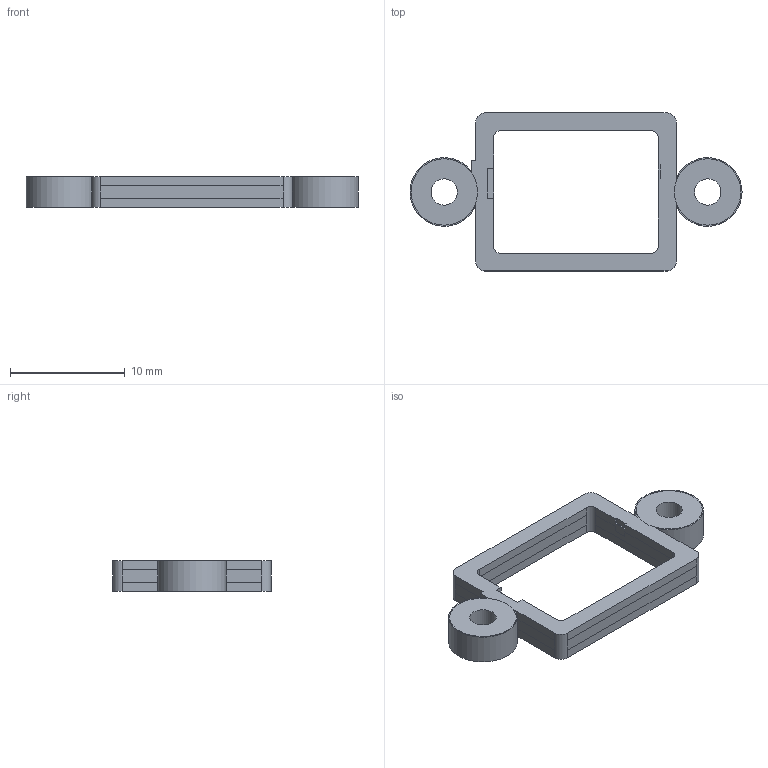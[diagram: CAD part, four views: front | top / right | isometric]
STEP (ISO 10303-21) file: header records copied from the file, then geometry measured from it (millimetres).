
FILE_DESCRIPTION(/* description */ (''),/* implementation_level */ '2;1');
FILE_NAME(/* name */ 'P13.step',/* time_stamp */ '2026-09-15T15:14:50-07:00',/* author */ (''),/* organization */ (''),/* preprocessor_version */ 'ST-DEVELOPER v20.1',/* originating_system */ 'Autodesk Translation Framework v15.8.0.0',/* authorisation */ '');
FILE_SCHEMA (('AUTOMOTIVE_DESIGN { 1 0 10303 214 3 1 1 }'));
Length unit declared in the file: millimetre
Products named in the file (1): 2026-09-15-15-14-50-000
Bounding box: 28.99 x 13.8 x 2.65 mm (x, y, z)
Volume: 339.2 mm3; surface area: 683.9 mm2
Topology: 1 solids, 1 shells, 66 faces, 182 edges, 124 vertices
Faces by surface type: plane 52, cylinder 14
Full cylindrical faces by diameter (mm): 2.3 x2, 4.4 x2
Entity records: 2147 total; most frequent: CARTESIAN_POINT 373, ORIENTED_EDGE 364, DIRECTION 348, EDGE_CURVE 182, LINE 150, VECTOR 150, VERTEX_POINT 124, AXIS2_PLACEMENT_3D 99
